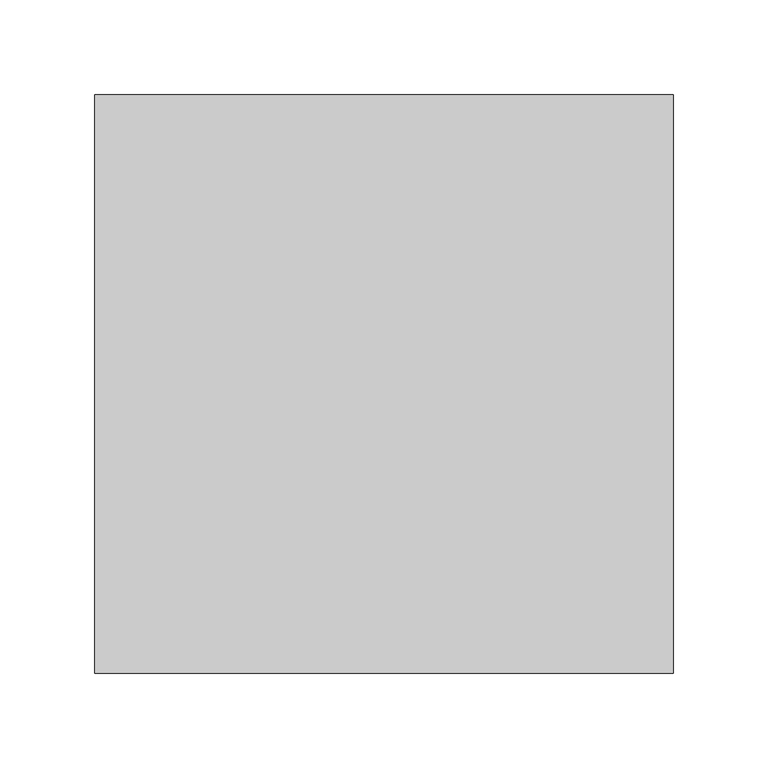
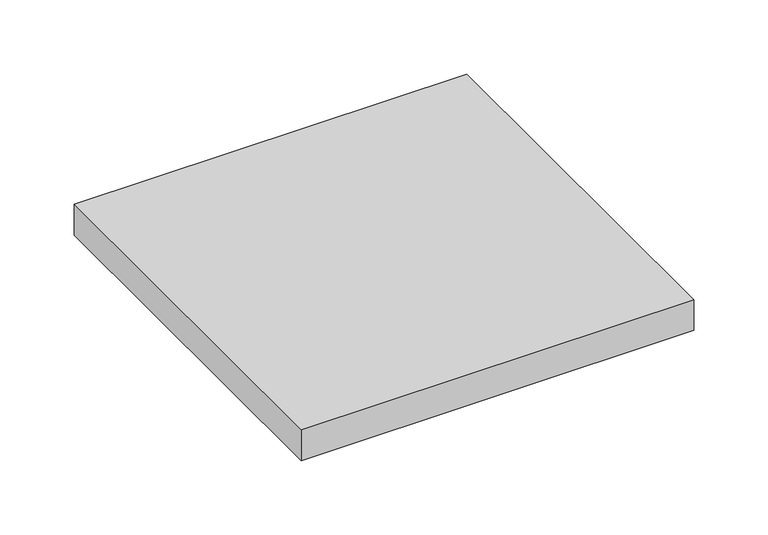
"""IFC4 building model written with IfcOpenShell, lengths in millimetres: light fixture geometry, LCMPD12Q_SURFACE MOUNT BASIC : LCMPD12QW-T30."""

from ifc_helpers import new_model, si_unit, frame, origin, place, context, project, spatial, polyline, outline, extrude, faceted_brep, source, transform, mapped, element, save


def light_fixture_037b58a4(model_context):
    return source(origin(), model_context, "Body", "SolidModel", [
        faceted_brep([(152.4, 118.6007118, 0.0), (-152.4, 118.6007118, 0.0), (-152.4, -186.1992882, 0.0), (152.4, -186.1992882, 0.0), (152.4, 118.6007118, -25.4), (152.4, -186.1992882, -25.4), (-152.4, -186.1992882, -25.4), (-152.4, 118.6007118, -25.4), (139.7, 105.9007118, -25.4), (-139.7, 105.9007118, -25.4), (-139.7, -173.4992882, -25.4), (139.7, -173.4992882, -25.4), (139.7, -173.4992882, -19.3887641), (139.7, 105.9007118, -19.3887641), (-139.7, -173.4992882, -19.3887641), (-139.7, 105.9007118, -19.3887641)], [[[0, 1, 2, 3]], [[4, 5, 6, 7], [8, 9, 10, 11]], [[1, 0, 4, 7]], [[2, 1, 7, 6]], [[3, 2, 6, 5]], [[0, 3, 5, 4]], [[8, 11, 12, 13]], [[11, 10, 14, 12]], [[10, 9, 15, 14]], [[9, 8, 13, 15]], [[13, 12, 14, 15]]]),
        extrude(outline(polyline([(139.7, 105.9007118), (139.7, -173.4992882), (-139.7, -173.4992882), (-139.7, 105.9007118), (139.7, 105.9007118)])), frame((0.0, 0.0, -22.6293088), z_axis=(0.0, 0.0, 1.0), x_axis=(1.0, 0.0, 0.0)), (0.0, 0.0, 1.0), 3.2405446),
    ])


if __name__ == "__main__":
    model = new_model("IFC4")
    model_context = context("Model", 3, world=origin())
    ifc_project = project(units=[si_unit("LENGTHUNIT", "METRE", prefix="MILLI")], contexts=[model_context])
    site = spatial("IfcSite", under=ifc_project)
    building = spatial("IfcBuilding", under=site)
    placement = place(None, origin())
    light_fixture_shape = light_fixture_037b58a4(model_context)
    element("IfcLightFixture", 1, ObjectType="LCMPD12Q_SURFACE MOUNT BASIC : LCMPD12QW-T30", at=placement, inside=building, context=model_context, shape_type="MappedRepresentation", body=[
        mapped(light_fixture_shape, transform((0.0, 0.0, 0.0), x_axis=(1.0, 0.0, 0.0), y_axis=(0.0, 1.0, 0.0), z_axis=(0.0, 0.0, 1.0))),
    ])
    save(model, "model.ifc")
